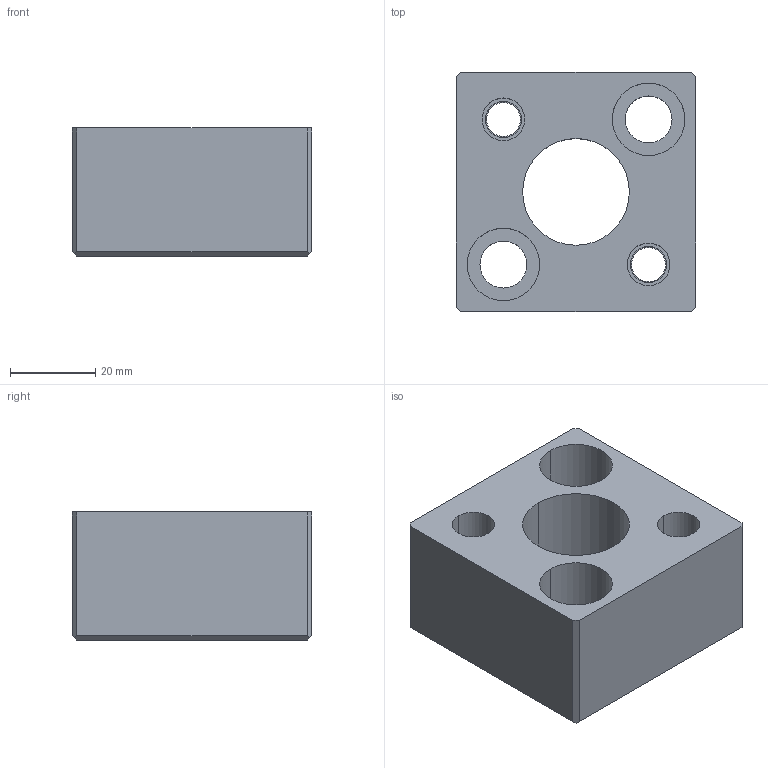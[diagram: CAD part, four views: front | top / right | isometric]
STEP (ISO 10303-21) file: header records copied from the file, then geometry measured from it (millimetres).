
FILE_DESCRIPTION(/* description */ (''),/* implementation_level */ '2;1');
FILE_NAME(/* name */ '3d_sr-fn25_05483_r00.stp',/* time_stamp */ '2011-01-10T14:09:58+09:00',/* author */ ('MISUMI'),/* organization */ (''),/* preprocessor_version */ 'ST-DEVELOPER v11',/* originating_system */ 'UGS - NX 5.0',/* authorisation */ '');
FILE_SCHEMA (('CONFIG_CONTROL_DESIGN'));
Length unit declared in the file: millimetre
Products named in the file (1): 3d_sr-fn25_05483_r00
Bounding box: 56 x 56 x 30 mm (x, y, z)
Volume: 65723.4 mm3; surface area: 17849.7 mm2
Topology: 1 solids, 1 shells, 47 faces, 116 edges, 77 vertices
Faces by surface type: cylinder 23, plane 22, cone 2
Entity records: 1518 total; most frequent: DIRECTION 260, CARTESIAN_POINT 244, ORIENTED_EDGE 232, EDGE_CURVE 116, AXIS2_PLACEMENT_3D 97, VERTEX_POINT 77, LINE 66, VECTOR 66
